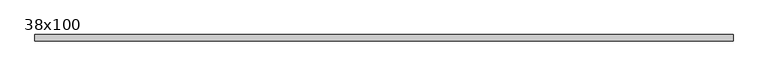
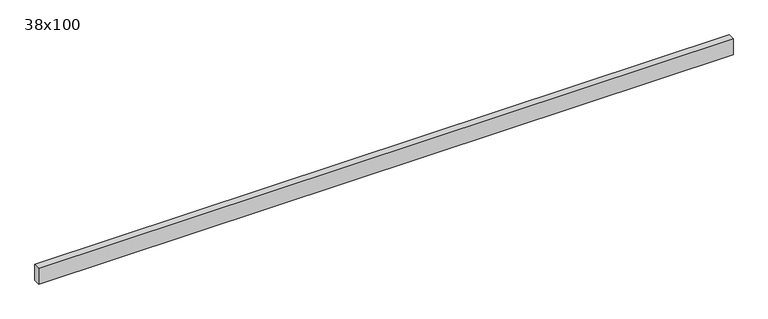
"""IFC4 building model written with IfcOpenShell, lengths in millimetres: beam geometry, Poutre - Bois de construction de dimensions courantes : 38x100."""

from ifc_helpers import new_model, si_unit, frame, origin, place, context, project, spatial, polyline, outline, extrude, source, transform, mapped, element, save


def beam_38x100_3e6410e7(model_context):
    return source(origin(), model_context, "Body", "SweptSolid", [
        extrude(outline(polyline([(2057.0, 19.05), (2057.0, -19.05), (-2057.0, -19.05), (-2057.0, 19.05), (2057.0, 19.05)])), frame((0.0, 0.0, -50.0), z_axis=(0.0, 0.0, 1.0), x_axis=(1.0, 0.0, 0.0)), (0.0, 0.0, 1.0), 100.0),
    ])


if __name__ == "__main__":
    model = new_model("IFC4")
    model_context = context("Model", 3, world=origin())
    ifc_project = project(units=[si_unit("LENGTHUNIT", "METRE", prefix="MILLI")], contexts=[model_context])
    site = spatial("IfcSite", under=ifc_project)
    building = spatial("IfcBuilding", under=site)
    placement = place(None, origin())
    beam_38x100_shape = beam_38x100_3e6410e7(model_context)
    element("IfcBeam", 1, ObjectType="Poutre - Bois de construction de dimensions courantes : 38x100", at=placement, inside=building, context=model_context, shape_type="MappedRepresentation", body=[
        mapped(beam_38x100_shape, transform((0.0, 0.0, 0.0), x_axis=(1.0, 0.0, 0.0), y_axis=(0.0, 1.0, 0.0), z_axis=(0.0, 0.0, 1.0))),
    ])
    save(model, "model.ifc")
